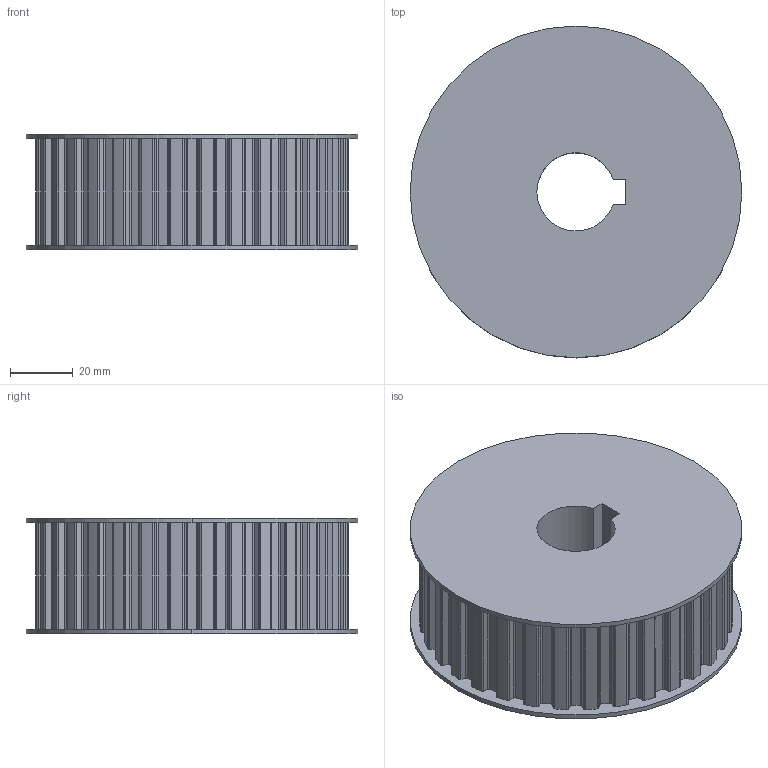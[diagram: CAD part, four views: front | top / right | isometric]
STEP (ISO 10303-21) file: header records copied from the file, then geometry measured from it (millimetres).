
FILE_DESCRIPTION (( 'STEP AP203' ), '1' );
FILE_NAME ('084.812.015.STEP', '2015-05-22T15:32:20', ( '' ), ( '' ), 'SwSTEP 2.0', 'SolidWorks 2012', '' );
FILE_SCHEMA (( 'CONFIG_CONTROL_DESIGN' ));
Length unit declared in the file: millimetre
Products named in the file (1): 084.812.015
Bounding box: 106 x 106 x 37 mm (x, y, z)
Volume: 262433.9 mm3; surface area: 37320.4 mm2
Topology: 1 solids, 1 shells, 295 faces, 873 edges, 582 vertices
Faces by surface type: cylinder 192, plane 103
Entity records: 10112 total; most frequent: DIRECTION 1849, CARTESIAN_POINT 1751, ORIENTED_EDGE 1746, EDGE_CURVE 873, AXIS2_PLACEMENT_3D 680, VERTEX_POINT 582, LINE 489, VECTOR 489
